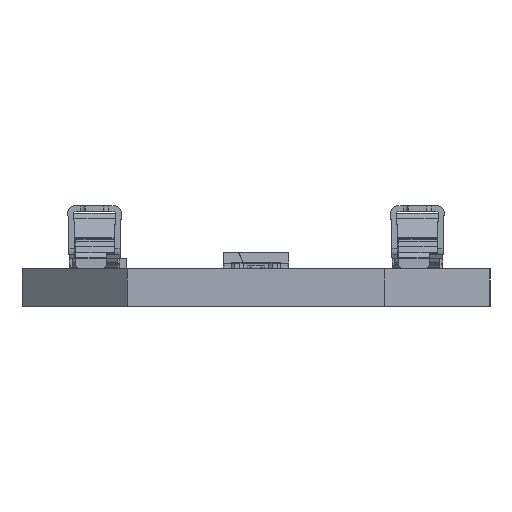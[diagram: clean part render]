
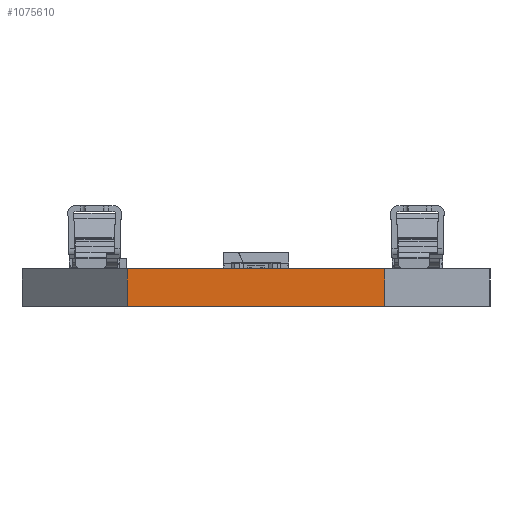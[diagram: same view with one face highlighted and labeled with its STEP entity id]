
A CAD part, left-side view. The second image highlights one B-rep face of the part: STEP entity #1075610.
In plain terms, the highlighted planar face has unit normal (-1, 0, 0).
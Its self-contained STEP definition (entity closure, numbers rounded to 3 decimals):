
#1058720=CARTESIAN_POINT('',(0.,4.5,0.));
#1058730=DIRECTION('',(0.,1.,0.));
#1058740=VECTOR('',#1058730,0.039);
#1058750=LINE('',#1058720,#1058740);
#1058760=CARTESIAN_POINT('',(0.,4.5,0.));
#1058770=VERTEX_POINT('',#1058760);
#1058780=CARTESIAN_POINT('',(0.,15.5,0.));
#1058790=VERTEX_POINT('',#1058780);
#1058800=EDGE_CURVE('',#1058770,#1058790,#1058750,.T.);
#1064410=CARTESIAN_POINT('',(0.,4.5,-1.6));
#1064420=VERTEX_POINT('',#1064410);
#1066210=CARTESIAN_POINT('',(0.,15.5,-1.6));
#1066220=VERTEX_POINT('',#1066210);
#1066250=CARTESIAN_POINT('',(0.,4.5,-1.6));
#1066260=DIRECTION('',(0.,1.,0.));
#1066270=VECTOR('',#1066260,0.039);
#1066280=LINE('',#1066250,#1066270);
#1066290=EDGE_CURVE('',#1064420,#1066220,#1066280,.T.);
#1070060=CARTESIAN_POINT('',(0.,4.5,0.));
#1070070=DIRECTION('',(0.,0.,-1.));
#1070080=VECTOR('',#1070070,1.);
#1070090=LINE('',#1070060,#1070080);
#1070100=EDGE_CURVE('',#1058770,#1064420,#1070090,.T.);
#1075320=CARTESIAN_POINT('',(0.,15.5,0.));
#1075330=DIRECTION('',(0.,0.,-1.));
#1075340=VECTOR('',#1075330,1.);
#1075350=LINE('',#1075320,#1075340);
#1075360=EDGE_CURVE('',#1058790,#1066220,#1075350,.T.);
#1075500=CARTESIAN_POINT('',(0.,4.5,0.));
#1075510=DIRECTION('',(1.,0.,0.));
#1075520=DIRECTION('',(0.,-1.,0.));
#1075530=AXIS2_PLACEMENT_3D('',#1075500,#1075510,#1075520);
#1075540=PLANE('',#1075530);
#1075550=ORIENTED_EDGE('',*,*,#1058800,.T.);
#1075560=ORIENTED_EDGE('',*,*,#1070100,.F.);
#1075570=ORIENTED_EDGE('',*,*,#1066290,.F.);
#1075580=ORIENTED_EDGE('',*,*,#1075360,.T.);
#1075590=EDGE_LOOP('',(#1075580,#1075570,#1075560,#1075550));
#1075600=FACE_OUTER_BOUND('',#1075590,.T.);
#1075610=ADVANCED_FACE('',(#1075600),#1075540,.F.);
